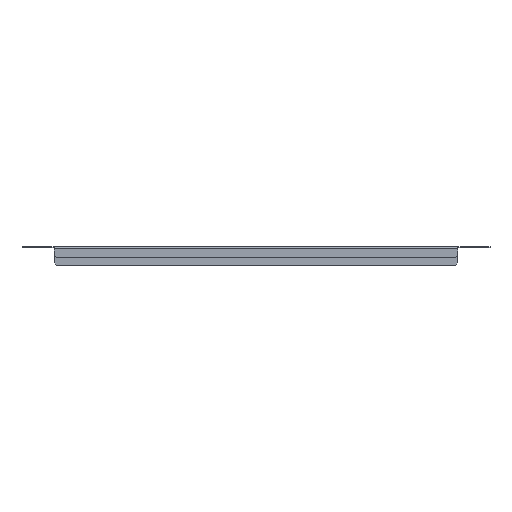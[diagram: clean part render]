
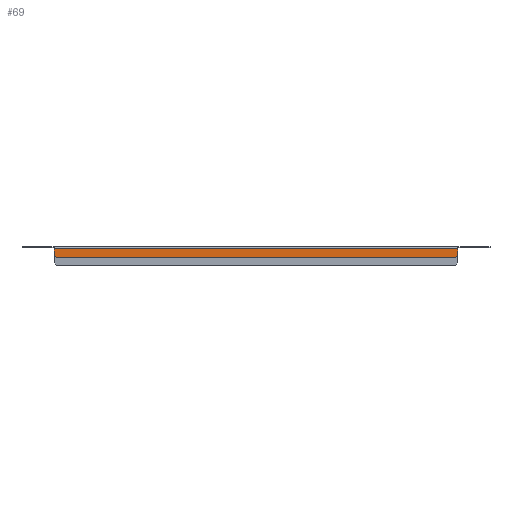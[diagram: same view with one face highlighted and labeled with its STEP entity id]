
A CAD part, front view. The second image highlights one B-rep face of the part: STEP entity #69.
In plain terms, the highlighted planar face has unit normal (0, -1, 0).
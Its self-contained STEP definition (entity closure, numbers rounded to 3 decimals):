
#69 = ADVANCED_FACE ( 'NONE', ( #1438 ), #392, .F. ) ;
#389 = DIRECTION ( 'NONE',  ( 0., 0., 1. ) ) ;
#390 = DIRECTION ( 'NONE',  ( 0., 1., 0. ) ) ;
#391 = CARTESIAN_POINT ( 'NONE',  ( 296.25, -99.5, -27. ) ) ;
#392 = PLANE ( 'NONE',  #1616 ) ;
#769 = EDGE_LOOP ( 'NONE', ( #832, #834, #833, #836, #835, #837 ) ) ;
#832 = ORIENTED_EDGE ( 'NONE', *, *, #1411, .F. ) ;
#833 = ORIENTED_EDGE ( 'NONE', *, *, #1407, .F. ) ;
#834 = ORIENTED_EDGE ( 'NONE', *, *, #1420, .T. ) ;
#835 = ORIENTED_EDGE ( 'NONE', *, *, #1421, .F. ) ;
#836 = ORIENTED_EDGE ( 'NONE', *, *, #1404, .F. ) ;
#837 = ORIENTED_EDGE ( 'NONE', *, *, #1414, .T. ) ;
#1021 = VERTEX_POINT ( 'NONE', #1202 ) ;
#1023 = VERTEX_POINT ( 'NONE', #1204 ) ;
#1024 = VERTEX_POINT ( 'NONE', #1205 ) ;
#1027 = VERTEX_POINT ( 'NONE', #1208 ) ;
#1028 = VERTEX_POINT ( 'NONE', #1209 ) ;
#1029 = VERTEX_POINT ( 'NONE', #1210 ) ;
#1202 = CARTESIAN_POINT ( 'NONE',  ( 296.25, -99.5, -2.9 ) ) ;
#1204 = CARTESIAN_POINT ( 'NONE',  ( -296.25, -99.5, -2.9 ) ) ;
#1205 = CARTESIAN_POINT ( 'NONE',  ( 296.25, -99.5, -12.8 ) ) ;
#1208 = CARTESIAN_POINT ( 'NONE',  ( -296.25, -99.5, -12.8 ) ) ;
#1209 = CARTESIAN_POINT ( 'NONE',  ( 292.75, -99.5, -16.3 ) ) ;
#1210 = CARTESIAN_POINT ( 'NONE',  ( -292.75, -99.5, -16.3 ) ) ;
#1270 = LINE ( 'NONE', #1271, #1555 ) ;
#1271 = CARTESIAN_POINT ( 'NONE',  ( 296.25, -99.5, -2.9 ) ) ;
#1272 = DIRECTION ( 'NONE',  ( 1., 0., 0. ) ) ;
#1279 = LINE ( 'NONE', #1280, #1559 ) ;
#1280 = CARTESIAN_POINT ( 'NONE',  ( 296.25, -99.5, -1.4 ) ) ;
#1281 = DIRECTION ( 'NONE',  ( 0., 0., -1. ) ) ;
#1291 = LINE ( 'NONE', #1292, #1651 ) ;
#1292 = CARTESIAN_POINT ( 'NONE',  ( 296.25, -99.5, -16.3 ) ) ;
#1293 = DIRECTION ( 'NONE',  ( -1., 0., 0. ) ) ;
#1300 = LINE ( 'NONE', #1301, #1689 ) ;
#1301 = CARTESIAN_POINT ( 'NONE',  ( -292.75, -99.5, -16.3 ) ) ;
#1302 = DIRECTION ( 'NONE',  ( 0.707, 0., -0.707 ) ) ;
#1318 = LINE ( 'NONE', #1319, #1695 ) ;
#1319 = CARTESIAN_POINT ( 'NONE',  ( 296.25, -99.5, -12.8 ) ) ;
#1320 = DIRECTION ( 'NONE',  ( 0.707, 0., 0.707 ) ) ;
#1321 = LINE ( 'NONE', #1322, #1696 ) ;
#1322 = CARTESIAN_POINT ( 'NONE',  ( -296.25, -99.5, -27. ) ) ;
#1323 = DIRECTION ( 'NONE',  ( 0., 0., 1. ) ) ;
#1404 = EDGE_CURVE ( 'NONE', #1023, #1021, #1270, .T. ) ;
#1407 = EDGE_CURVE ( 'NONE', #1021, #1024, #1279, .T. ) ;
#1411 = EDGE_CURVE ( 'NONE', #1028, #1029, #1291, .T. ) ;
#1414 = EDGE_CURVE ( 'NONE', #1027, #1029, #1300, .T. ) ;
#1420 = EDGE_CURVE ( 'NONE', #1028, #1024, #1318, .T. ) ;
#1421 = EDGE_CURVE ( 'NONE', #1027, #1023, #1321, .T. ) ;
#1438 = FACE_OUTER_BOUND ( 'NONE', #769, .T. ) ;
#1555 = VECTOR ( 'NONE', #1272, 1000. ) ;
#1559 = VECTOR ( 'NONE', #1281, 1000. ) ;
#1616 = AXIS2_PLACEMENT_3D ( 'NONE', #391, #390, #389 ) ;
#1651 = VECTOR ( 'NONE', #1293, 1000. ) ;
#1689 = VECTOR ( 'NONE', #1302, 1000. ) ;
#1695 = VECTOR ( 'NONE', #1320, 1000. ) ;
#1696 = VECTOR ( 'NONE', #1323, 1000. ) ;
